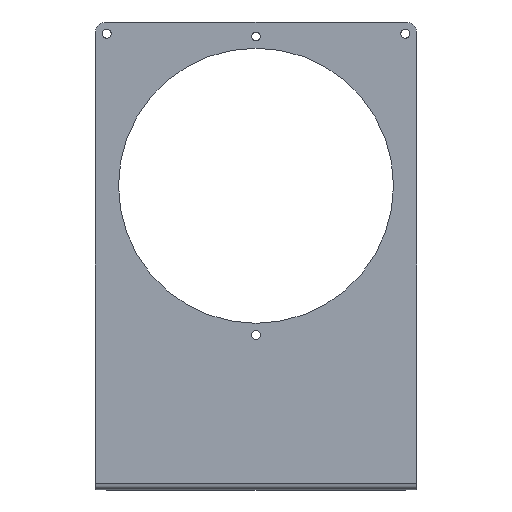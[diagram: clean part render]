
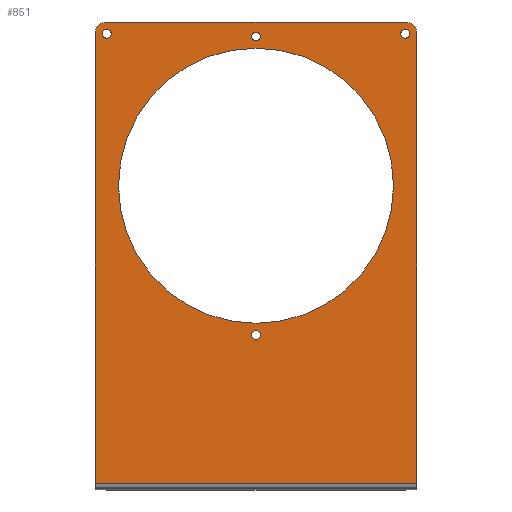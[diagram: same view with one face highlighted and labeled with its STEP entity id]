
A CAD part, top view. The second image highlights one B-rep face of the part: STEP entity #851.
In plain terms, the highlighted planar face has unit normal (0, 0, 1).
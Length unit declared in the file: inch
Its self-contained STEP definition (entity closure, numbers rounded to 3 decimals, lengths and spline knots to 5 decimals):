
#2=CARTESIAN_POINT('',(0.,1.5,0.));
#3=DIRECTION('',(0.,0.,1.));
#4=DIRECTION('',(-1.,0.,0.));
#5=AXIS2_PLACEMENT_3D('',#2,#3,#4);
#7=CARTESIAN_POINT('',(0.,1.5,0.));
#8=DIRECTION('',(0.,0.,1.));
#9=DIRECTION('',(1.,0.,0.));
#10=AXIS2_PLACEMENT_3D('',#7,#8,#9);
#12=CARTESIAN_POINT('',(0.,4.69,0.));
#13=DIRECTION('',(0.,0.,1.));
#14=DIRECTION('',(-1.,0.,0.));
#15=AXIS2_PLACEMENT_3D('',#12,#13,#14);
#17=CARTESIAN_POINT('',(0.,4.69,0.));
#18=DIRECTION('',(0.,0.,1.));
#19=DIRECTION('',(1.,0.,0.));
#20=AXIS2_PLACEMENT_3D('',#17,#18,#19);
#22=CARTESIAN_POINT('',(0.,-1.69,0.));
#23=DIRECTION('',(0.,0.,1.));
#24=DIRECTION('',(-1.,0.,0.));
#25=AXIS2_PLACEMENT_3D('',#22,#23,#24);
#27=CARTESIAN_POINT('',(0.,-1.69,0.));
#28=DIRECTION('',(0.,0.,1.));
#29=DIRECTION('',(1.,0.,0.));
#30=AXIS2_PLACEMENT_3D('',#27,#28,#29);
#32=CARTESIAN_POINT('',(3.19,4.75,0.));
#33=DIRECTION('',(0.,0.,1.));
#34=DIRECTION('',(1.,0.,0.));
#35=AXIS2_PLACEMENT_3D('',#32,#33,#34);
#37=DIRECTION('',(0.,1.,0.));
#38=VECTOR('',#37,9.61);
#39=CARTESIAN_POINT('',(3.44,-4.86,0.));
#40=LINE('',#39,#38);
#41=DIRECTION('',(0.,-1.,0.));
#42=VECTOR('',#41,9.61);
#43=CARTESIAN_POINT('',(-3.44,4.75,0.));
#44=LINE('',#43,#42);
#45=CARTESIAN_POINT('',(-3.19,4.75,0.));
#46=DIRECTION('',(0.,0.,1.));
#47=DIRECTION('',(0.,1.,0.));
#48=AXIS2_PLACEMENT_3D('',#45,#46,#47);
#50=DIRECTION('',(-1.,0.,0.));
#51=VECTOR('',#50,6.38);
#52=CARTESIAN_POINT('',(3.19,5.,0.));
#53=LINE('',#52,#51);
#54=CARTESIAN_POINT('',(3.19,4.75,0.));
#55=DIRECTION('',(0.,0.,1.));
#56=DIRECTION('',(-1.,0.,0.));
#57=AXIS2_PLACEMENT_3D('',#54,#55,#56);
#59=CARTESIAN_POINT('',(3.19,4.75,0.));
#60=DIRECTION('',(0.,0.,1.));
#61=DIRECTION('',(1.,0.,0.));
#62=AXIS2_PLACEMENT_3D('',#59,#60,#61);
#64=CARTESIAN_POINT('',(-3.19,4.75,0.));
#65=DIRECTION('',(0.,0.,1.));
#66=DIRECTION('',(-1.,0.,0.));
#67=AXIS2_PLACEMENT_3D('',#64,#65,#66);
#69=CARTESIAN_POINT('',(-3.19,4.75,0.));
#70=DIRECTION('',(0.,0.,1.));
#71=DIRECTION('',(1.,0.,0.));
#72=AXIS2_PLACEMENT_3D('',#69,#70,#71);
#200=DIRECTION('',(1.,0.,0.));
#201=VECTOR('',#200,6.88);
#202=CARTESIAN_POINT('',(-3.44,-4.86,0.));
#203=LINE('',#202,#201);
#618=CARTESIAN_POINT('',(-3.44,-4.86,0.));
#620=VERTEX_POINT('',#618);
#622=CARTESIAN_POINT('',(3.44,-4.86,0.));
#624=VERTEX_POINT('',#622);
#730=CARTESIAN_POINT('',(-2.94,1.5,0.));
#731=CARTESIAN_POINT('',(2.94,1.5,0.));
#732=VERTEX_POINT('',#730);
#733=VERTEX_POINT('',#731);
#734=CARTESIAN_POINT('',(-0.0935,4.69,0.));
#735=CARTESIAN_POINT('',(0.0935,4.69,0.));
#736=VERTEX_POINT('',#734);
#737=VERTEX_POINT('',#735);
#738=CARTESIAN_POINT('',(-0.0935,-1.69,0.));
#739=CARTESIAN_POINT('',(0.0935,-1.69,0.));
#740=VERTEX_POINT('',#738);
#741=VERTEX_POINT('',#739);
#754=CARTESIAN_POINT('',(3.44,4.75,0.));
#755=CARTESIAN_POINT('',(3.19,5.,0.));
#756=VERTEX_POINT('',#754);
#757=VERTEX_POINT('',#755);
#762=CARTESIAN_POINT('',(-3.19,5.,0.));
#763=CARTESIAN_POINT('',(-3.44,4.75,0.));
#764=VERTEX_POINT('',#762);
#765=VERTEX_POINT('',#763);
#786=CARTESIAN_POINT('',(3.09625,4.75,0.));
#787=CARTESIAN_POINT('',(3.28375,4.75,0.));
#788=VERTEX_POINT('',#786);
#789=VERTEX_POINT('',#787);
#790=CARTESIAN_POINT('',(-3.28375,4.75,0.));
#791=CARTESIAN_POINT('',(-3.09625,4.75,0.));
#792=VERTEX_POINT('',#790);
#793=VERTEX_POINT('',#791);
#802=CARTESIAN_POINT('',(0.,0.,0.));
#803=DIRECTION('',(0.,0.,1.));
#804=DIRECTION('',(1.,0.,0.));
#805=AXIS2_PLACEMENT_3D('',#802,#803,#804);
#806=PLANE('',#805);
#808=ORIENTED_EDGE('',*,*,#807,.F.);
#810=ORIENTED_EDGE('',*,*,#809,.F.);
#812=ORIENTED_EDGE('',*,*,#811,.F.);
#814=ORIENTED_EDGE('',*,*,#813,.F.);
#816=ORIENTED_EDGE('',*,*,#815,.F.);
#818=ORIENTED_EDGE('',*,*,#817,.F.);
#819=EDGE_LOOP('',(#808,#810,#812,#814,#816,#818));
#820=FACE_OUTER_BOUND('',#819,.F.);
#822=ORIENTED_EDGE('',*,*,#821,.T.);
#824=ORIENTED_EDGE('',*,*,#823,.T.);
#825=EDGE_LOOP('',(#822,#824));
#826=FACE_BOUND('',#825,.F.);
#828=ORIENTED_EDGE('',*,*,#827,.T.);
#830=ORIENTED_EDGE('',*,*,#829,.T.);
#831=EDGE_LOOP('',(#828,#830));
#832=FACE_BOUND('',#831,.F.);
#834=ORIENTED_EDGE('',*,*,#833,.T.);
#836=ORIENTED_EDGE('',*,*,#835,.T.);
#837=EDGE_LOOP('',(#834,#836));
#838=FACE_BOUND('',#837,.F.);
#840=ORIENTED_EDGE('',*,*,#839,.T.);
#842=ORIENTED_EDGE('',*,*,#841,.T.);
#843=EDGE_LOOP('',(#840,#842));
#844=FACE_BOUND('',#843,.F.);
#846=ORIENTED_EDGE('',*,*,#845,.T.);
#848=ORIENTED_EDGE('',*,*,#847,.T.);
#849=EDGE_LOOP('',(#846,#848));
#850=FACE_BOUND('',#849,.F.);
#851=ADVANCED_FACE('',(#820,#826,#832,#838,#844,#850),#806,.T.);
#6=CIRCLE('',#5,2.94);
#11=CIRCLE('',#10,2.94);
#16=CIRCLE('',#15,0.0935);
#21=CIRCLE('',#20,0.0935);
#26=CIRCLE('',#25,0.0935);
#31=CIRCLE('',#30,0.0935);
#36=CIRCLE('',#35,0.25);
#49=CIRCLE('',#48,0.25);
#58=CIRCLE('',#57,0.09375);
#63=CIRCLE('',#62,0.09375);
#68=CIRCLE('',#67,0.09375);
#73=CIRCLE('',#72,0.09375);
#807=EDGE_CURVE('',#756,#757,#36,.T.);
#809=EDGE_CURVE('',#624,#756,#40,.T.);
#811=EDGE_CURVE('',#620,#624,#203,.T.);
#813=EDGE_CURVE('',#765,#620,#44,.T.);
#815=EDGE_CURVE('',#764,#765,#49,.T.);
#817=EDGE_CURVE('',#757,#764,#53,.T.);
#821=EDGE_CURVE('',#732,#733,#6,.T.);
#823=EDGE_CURVE('',#733,#732,#11,.T.);
#827=EDGE_CURVE('',#736,#737,#16,.T.);
#829=EDGE_CURVE('',#737,#736,#21,.T.);
#833=EDGE_CURVE('',#740,#741,#26,.T.);
#835=EDGE_CURVE('',#741,#740,#31,.T.);
#839=EDGE_CURVE('',#788,#789,#58,.T.);
#841=EDGE_CURVE('',#789,#788,#63,.T.);
#845=EDGE_CURVE('',#792,#793,#68,.T.);
#847=EDGE_CURVE('',#793,#792,#73,.T.);
